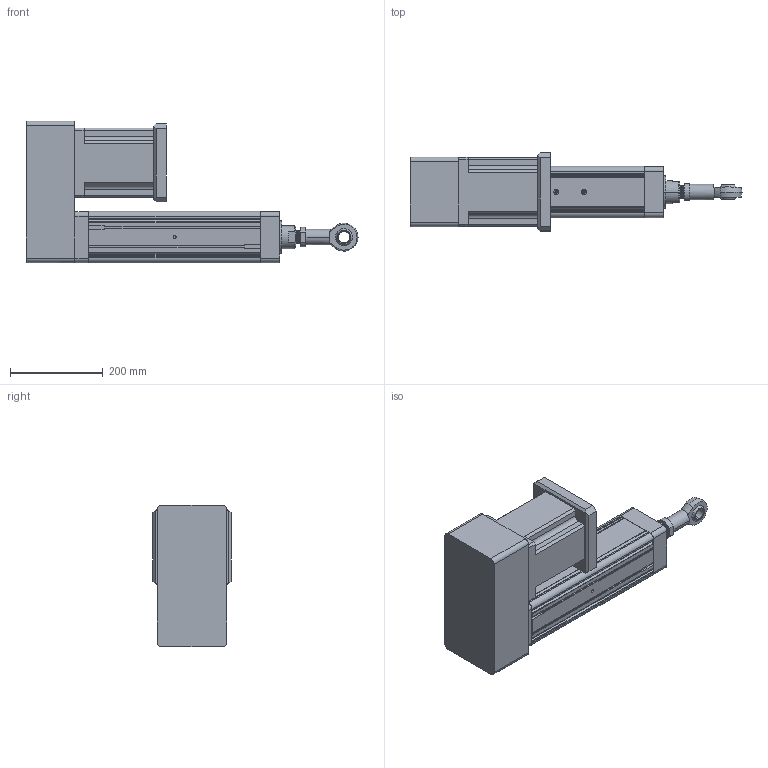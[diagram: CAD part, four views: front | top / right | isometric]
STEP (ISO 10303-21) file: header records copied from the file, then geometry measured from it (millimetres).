
FILE_DESCRIPTION (( 'STEP AP203' ), '1' );
FILE_NAME ('YRJ110-L200-H1K3.STEP', '2020-01-04T05:53:44', ( 'User' ), ( 'China' ), 'SwSTEP 2.0', 'SolidWorks 2016', '' );
FILE_SCHEMA (( 'CONFIG_CONTROL_DESIGN' ));
Length unit declared in the file: millimetre
Products named in the file (11): 萇儂碟-110; 095-100俴最倰第; 142熬厒儂; H1-110-1; K1-110; _BNC01-SI25T_K-R-001; _BNC01-SI25T_K-R-002; BNC01-SI25T_K-R; K3-110; YRJ110-L200-H1K3; H1-110-2
Assembly tree (10 placements, depth 4):
  YRJ110-L200-H1K3
    095-100俴最倰第
    H1-110-1
    H1-110-2
    萇儂碟-110
    142熬厒儂
    K3-110
      K1-110
      BNC01-SI25T_K-R
        _BNC01-SI25T_K-R-001
        _BNC01-SI25T_K-R-002
Bounding box: 715 x 168 x 305.5 mm (x, y, z)
Volume: 11475789.8 mm3; surface area: 840882.7 mm2
Topology: 8 solids, 8 shells, 401 faces, 1105 edges, 705 vertices
Faces by surface type: plane 175, cylinder 170, cone 42, bspline 14
Entity records: 22805 total; most frequent: CARTESIAN_POINT 11707, ORIENTED_EDGE 2138, DIRECTION 2004, EDGE_CURVE 1069, VERTEX_POINT 705, AXIS2_PLACEMENT_3D 682, VECTOR 640, LINE 640
